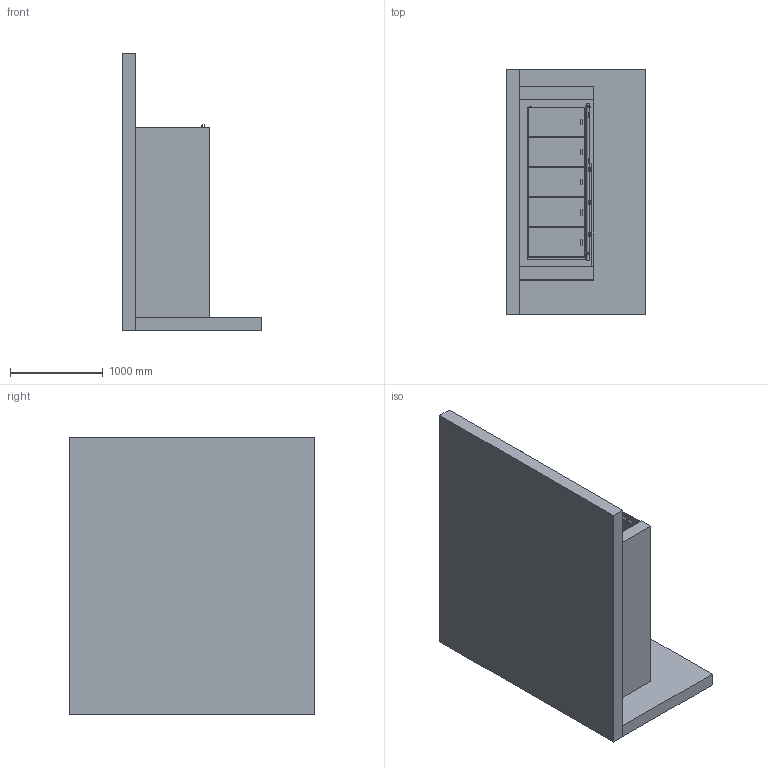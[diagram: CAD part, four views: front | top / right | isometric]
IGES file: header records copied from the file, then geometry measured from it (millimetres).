
Start section:  Autodesk Design for Windows version 2010 IGES version 5.3  Autodesk Design for Windows version 2010 IGES version 5.3
Global section: file name: \\Archi-NAS\Comune\X GIOVANNI\SCHEDE PRODOTTO\BOX DOCCIA\DISEGNI 3D\BX 200\MOMA DESIGN_BOX DOCCIA_BX203 LITE.igs; native system: Rhinoceros ( Jan 17 2018 ); preprocessor: Trout Lake IGES 012 Jan 17 2018; date: 230623.085446; units: millimetre
Bounding box: 1502.28 x 2641.25 x 2983.36 mm (x, y, z)
Surface area: 46399482.9 mm2 (no closed solid volume)
Topology: 0 solids, 0 shells, 453 faces, 2232 edges, 2194 vertices
Faces by surface type: bspline 453
